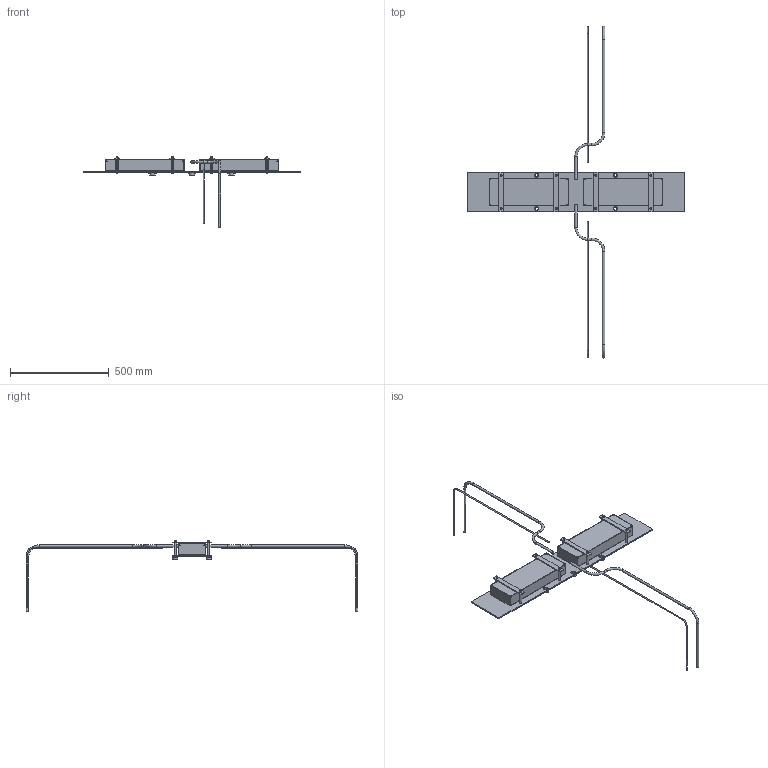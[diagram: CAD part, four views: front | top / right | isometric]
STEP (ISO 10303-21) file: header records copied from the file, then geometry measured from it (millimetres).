
FILE_DESCRIPTION(('FreeCAD Model'),'2;1');
FILE_NAME('Open CASCADE Shape Model','2026-10-29T17:57:10',('FreeCAD'),( 'FreeCAD'),'Open CASCADE STEP processor 7.8','FreeCAD','Unknown');
FILE_SCHEMA(('AUTOMOTIVE_DESIGN { 1 0 10303 214 1 1 1 1 }'));
Length unit declared in the file: millimetre
Products named in the file (1): Open CASCADE STEP translator 7.8 3
Bounding box: 1100 x 1682 x 356.5 mm (x, y, z)
Volume: 2620861.7 mm3; surface area: 1885050 mm2
Topology: 86 solids, 86 shells, 812 faces, 1806 edges, 1200 vertices
Faces by surface type: plane 582, cylinder 206, cone 16, torus 8
Full cylindrical faces by diameter (mm): 3 x16, 3.4 x32, 5 x16, 5.3 x16, 5.5 x24, 6 x4, 8.5 x8, 10 x16, 12 x16, 16 x6, 16.6 x6, 20 x6, 27 x6
Entity records: 22682 total; most frequent: DIRECTION 3920, CARTESIAN_POINT 3819, ORIENTED_EDGE 3612, EDGE_CURVE 1806, LINE 1318, VECTOR 1318, AXIS2_PLACEMENT_3D 1301, VERTEX_POINT 1200
